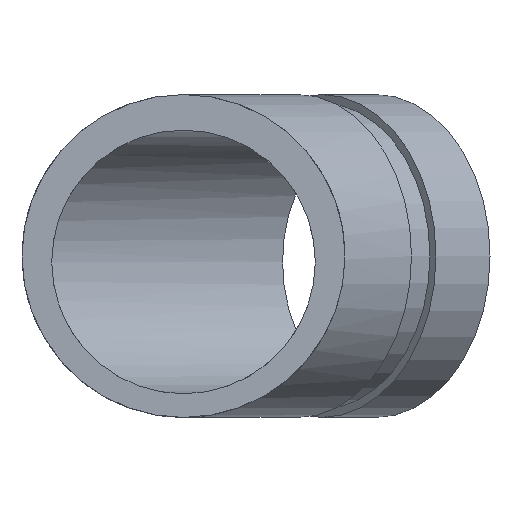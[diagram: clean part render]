
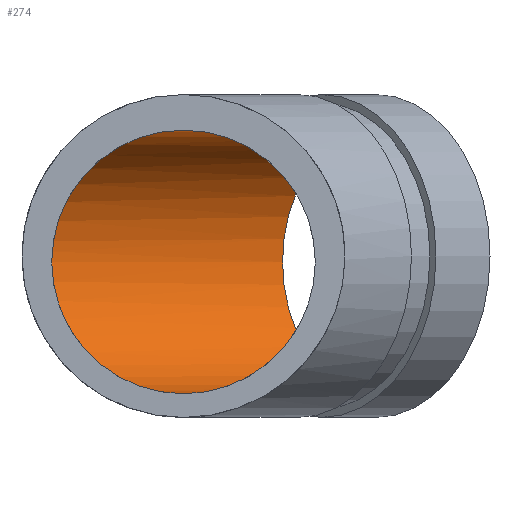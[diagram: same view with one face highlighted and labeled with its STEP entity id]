
A CAD part, front view. The second image highlights one B-rep face of the part: STEP entity #274.
In plain terms, the highlighted cylindrical face has radius 24.625 mm (diameter 49.251 mm), a full revolution.
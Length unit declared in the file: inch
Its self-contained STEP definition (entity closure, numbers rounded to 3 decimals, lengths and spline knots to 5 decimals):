
#45=ELLIPSE('',#322,1.04938,0.9695);
#46=ELLIPSE('',#323,1.04938,0.9695);
#47=ELLIPSE('',#324,1.04938,0.9695);
#72=FACE_OUTER_BOUND('',#90,.T.);
#90=EDGE_LOOP('',(#219,#220,#221,#222,#223,#224));
#102=LINE('',#510,#110);
#110=VECTOR('',#413,0.9695);
#128=CIRCLE('',#327,0.9695);
#143=VERTEX_POINT('',#498);
#144=VERTEX_POINT('',#499);
#145=VERTEX_POINT('',#501);
#147=VERTEX_POINT('',#508);
#169=EDGE_CURVE('',#143,#144,#45,.T.);
#170=EDGE_CURVE('',#143,#145,#46,.T.);
#171=EDGE_CURVE('',#144,#145,#47,.T.);
#174=EDGE_CURVE('',#147,#147,#128,.T.);
#175=EDGE_CURVE('',#147,#144,#102,.T.);
#219=ORIENTED_EDGE('',*,*,#174,.F.);
#220=ORIENTED_EDGE('',*,*,#175,.T.);
#221=ORIENTED_EDGE('',*,*,#171,.T.);
#222=ORIENTED_EDGE('',*,*,#170,.F.);
#223=ORIENTED_EDGE('',*,*,#169,.T.);
#224=ORIENTED_EDGE('',*,*,#175,.F.);
#246=CYLINDRICAL_SURFACE('',#326,0.9695);
#274=ADVANCED_FACE('',(#72),#246,.F.);
#322=AXIS2_PLACEMENT_3D('',#500,#400,#401);
#323=AXIS2_PLACEMENT_3D('',#502,#402,#403);
#324=AXIS2_PLACEMENT_3D('',#503,#404,#405);
#326=AXIS2_PLACEMENT_3D('',#507,#409,#410);
#327=AXIS2_PLACEMENT_3D('',#509,#411,#412);
#400=DIRECTION('center_axis',(-0.383,-0.924,0.));
#401=DIRECTION('ref_axis',(0.924,-0.383,0.));
#402=DIRECTION('center_axis',(0.383,0.924,0.));
#403=DIRECTION('ref_axis',(0.924,-0.383,0.));
#404=DIRECTION('center_axis',(-0.383,-0.924,0.));
#405=DIRECTION('ref_axis',(0.924,-0.383,0.));
#409=DIRECTION('center_axis',(-0.707,-0.707,0.));
#410=DIRECTION('ref_axis',(0.707,-0.707,0.));
#411=DIRECTION('center_axis',(-0.707,-0.707,0.));
#412=DIRECTION('ref_axis',(0.707,-0.707,0.));
#413=DIRECTION('',(-0.707,-0.707,0.));
#498=CARTESIAN_POINT('',(0.,0.,0.92582));
#499=CARTESIAN_POINT('',(-0.9695,0.40158,-0.04368));
#500=CARTESIAN_POINT('Origin',(0.,0.,-0.04368));
#501=CARTESIAN_POINT('',(0.,0.,-1.01318));
#502=CARTESIAN_POINT('Origin',(0.,0.,-0.04368));
#503=CARTESIAN_POINT('Origin',(0.,0.,-0.04368));
#507=CARTESIAN_POINT('Origin',(1.41421,1.41421,-0.04368));
#508=CARTESIAN_POINT('',(0.72867,2.09975,-0.04368));
#509=CARTESIAN_POINT('Origin',(1.41421,1.41421,-0.04368));
#510=CARTESIAN_POINT('',(0.72867,2.09975,-0.04368));
